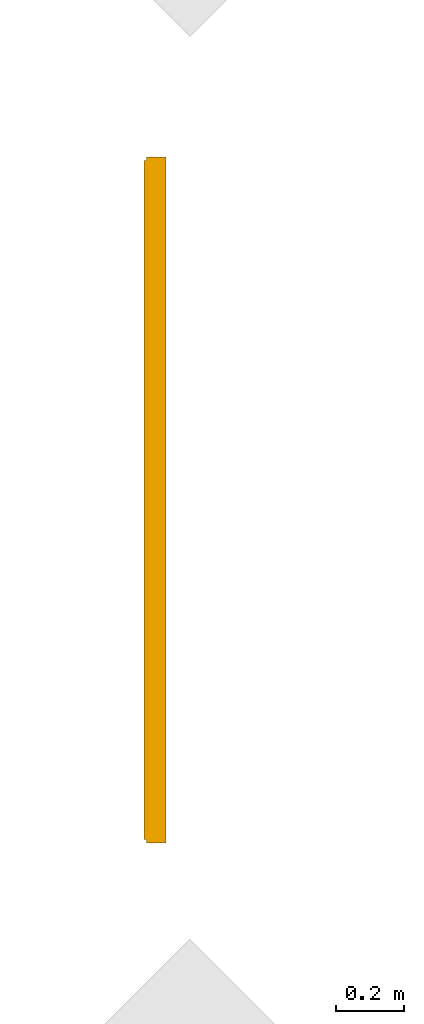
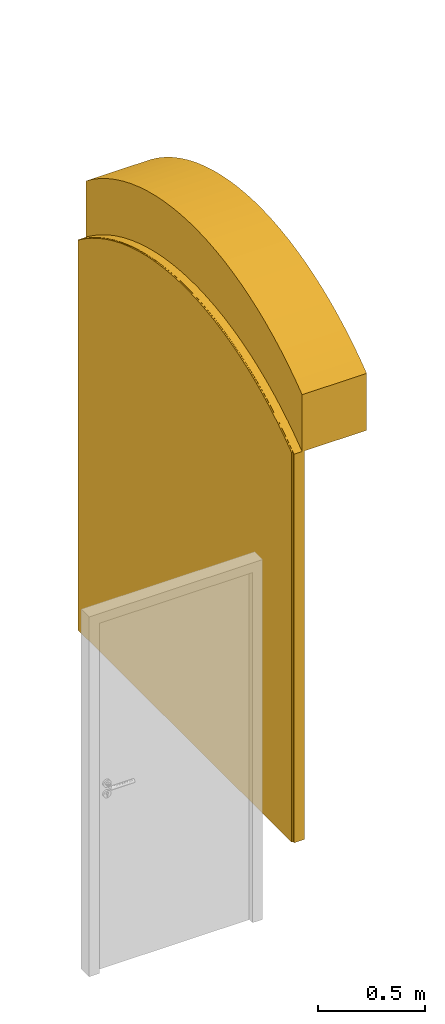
# One storey, part 3 of 6: 1 door.
"""IFC2X3 building model written with IfcOpenShell, lengths in metres."""

from ifc_helpers import new_model, entity, si_unit, converted_unit, derived_unit, direction, frame, frame_2d, origin, place, context, subcontext, project, spatial, polyline, circle_curve, parameter, trimmed, segment, composite_curve, outline, extrude, source, transform, mapped, material, material_list, type_object, type_shapes, element, save


model = new_model("IFC2X3")

# Units and contexts
model_context = context("Model", 3, precision=1e-05, world=origin(), true_north=direction((6.12303176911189e-17, 1.0)))
plan_context = context("Plan", 3, precision=1e-05, world=origin(), true_north=direction((6.12303176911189e-17, 1.0)))
body_context = subcontext(model_context, "Body", "Model", "MODEL_VIEW")
ifc_project = project(units=[si_unit("LENGTHUNIT", "METRE"), si_unit("AREAUNIT", "SQUARE_METRE"), si_unit("VOLUMEUNIT", "CUBIC_METRE"), converted_unit("PLANEANGLEUNIT", "DEGREE", entity("IfcRatioMeasure", 0.0174532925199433), si_unit("PLANEANGLEUNIT", "RADIAN"), dimensions=[0, 0, 0, 0, 0, 0, 0]), si_unit("MASSUNIT", "GRAM", prefix="KILO"), derived_unit("MASSDENSITYUNIT", [(si_unit("MASSUNIT", "GRAM", prefix="KILO"), 1), (si_unit("LENGTHUNIT", "METRE"), -3)]), derived_unit("MOMENTOFINERTIAUNIT", [(si_unit("LENGTHUNIT", "METRE"), 4)]), si_unit("TIMEUNIT", "SECOND"), si_unit("FREQUENCYUNIT", "HERTZ"), si_unit("THERMODYNAMICTEMPERATUREUNIT", "DEGREE_CELSIUS"), derived_unit("THERMALTRANSMITTANCEUNIT", [(si_unit("MASSUNIT", "GRAM", prefix="KILO"), 1), (si_unit("THERMODYNAMICTEMPERATUREUNIT", "KELVIN"), -1), (si_unit("TIMEUNIT", "SECOND"), -3)]), derived_unit("VOLUMETRICFLOWRATEUNIT", [(si_unit("LENGTHUNIT", "METRE"), 3), (si_unit("TIMEUNIT", "SECOND"), -1)]), derived_unit("MASSFLOWRATEUNIT", [(si_unit("MASSUNIT", "GRAM", prefix="KILO"), 1), (si_unit("TIMEUNIT", "SECOND"), -1)]), derived_unit("ROTATIONALFREQUENCYUNIT", [(si_unit("TIMEUNIT", "SECOND"), -1)]), si_unit("ELECTRICCURRENTUNIT", "AMPERE"), si_unit("ELECTRICVOLTAGEUNIT", "VOLT"), si_unit("POWERUNIT", "WATT"), si_unit("FORCEUNIT", "NEWTON", prefix="KILO"), si_unit("ILLUMINANCEUNIT", "LUX"), si_unit("LUMINOUSFLUXUNIT", "LUMEN"), si_unit("LUMINOUSINTENSITYUNIT", "CANDELA"), derived_unit("USERDEFINED", [(si_unit("MASSUNIT", "GRAM", prefix="KILO"), -1), (si_unit("LENGTHUNIT", "METRE"), -2), (si_unit("TIMEUNIT", "SECOND"), 3), (si_unit("LUMINOUSFLUXUNIT", "LUMEN"), 1)]), derived_unit("SOUNDPOWERUNIT", [(si_unit("MASSUNIT", "GRAM", prefix="KILO"), 1), (si_unit("LENGTHUNIT", "METRE"), 2), (si_unit("TIMEUNIT", "SECOND"), -3)]), derived_unit("SOUNDPRESSUREUNIT", [(si_unit("MASSUNIT", "GRAM", prefix="KILO"), 1), (si_unit("LENGTHUNIT", "METRE"), -1), (si_unit("TIMEUNIT", "SECOND"), -2)]), derived_unit("LINEARVELOCITYUNIT", [(si_unit("LENGTHUNIT", "METRE"), 1), (si_unit("TIMEUNIT", "SECOND"), -1)]), si_unit("PRESSUREUNIT", "PASCAL"), derived_unit("USERDEFINED", [(si_unit("LENGTHUNIT", "METRE"), -2), (si_unit("MASSUNIT", "GRAM", prefix="KILO"), 1), (si_unit("TIMEUNIT", "SECOND"), -2)]), derived_unit("LINEARFORCEUNIT", [(si_unit("MASSUNIT", "GRAM", prefix="KILO"), 1), (si_unit("LENGTHUNIT", "METRE"), 1), (si_unit("TIMEUNIT", "SECOND"), -2), (si_unit("LENGTHUNIT", "METRE"), -1)]), derived_unit("PLANARFORCEUNIT", [(si_unit("MASSUNIT", "GRAM", prefix="KILO"), 1), (si_unit("LENGTHUNIT", "METRE"), 1), (si_unit("TIMEUNIT", "SECOND"), -2), (si_unit("LENGTHUNIT", "METRE"), -2)])], contexts=[model_context, plan_context])

# Site, building, storey
site_placement = place(None, frame((-11.0823275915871, 23.8300534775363, 0.0)))
site = spatial("IfcSite", under=ifc_project, at=site_placement, Name="Default", CompositionType="ELEMENT")
building_placement = place(site_placement, origin())
building = spatial("IfcBuilding", under=site, at=building_placement, Name="Englische Kirche", CompositionType="ELEMENT")
storey_placement = place(building_placement, origin())
storey = spatial("IfcBuildingStorey", under=building, at=storey_placement, Name="Ebene 0 Nave FFL Phase 1 1864", CompositionType="ELEMENT", Elevation=0.0)

# Door
ifc_material_1 = material(Name="Holz - Eiche")
ifc_material_2 = material(Name="Quoin Brick")
ifc_material_list_1 = material_list([ifc_material_1, ifc_material_1, ifc_material_2])
ifc_material_list_2 = material_list([ifc_material_1, ifc_material_1, ifc_material_2])
door_style = type_object("IfcDoorStyle", Name="Tower_entrance_door:Tower_entrance_door", ConstructionType="NOTDEFINED", OperationType="NOTDEFINED", ParameterTakesPrecedence=False, Sizeable=False, material=ifc_material_list_2)
shared_shape = source(origin(), body_context, "Body", "SweptSolid", [
    extrude(outline(composite_curve([segment(polyline([(-1.10819592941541, -1.0075), (1.10574495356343, -1.0075)]), True, "CONTINUOUS"), segment(polyline([(1.10574495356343, -1.0075), (1.10574495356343, -0.997499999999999)]), True, "CONTINUOUS"), segment(polyline([(1.10574495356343, -0.997499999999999), (-1.10329397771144, -0.997499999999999)]), True, "CONTINUOUS"), segment(trimmed(circle_curve(frame_2d((0.187957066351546, 0.0), x_axis=(-0.78953490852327, 0.613705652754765)), 1.63166648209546), [parameter(0.171606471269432)], [parameter(75.5442551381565)], True, "PARAMETER"), False, "CONTINUOUS"), segment(polyline([(-1.10329397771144, 0.997500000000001), (1.10574495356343, 0.997500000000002)]), True, "CONTINUOUS"), segment(polyline([(1.10574495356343, 0.997500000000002), (1.10574495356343, 1.0075)]), True, "CONTINUOUS"), segment(polyline([(1.10574495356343, 1.0075), (-1.10819592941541, 1.0075)]), True, "CONTINUOUS"), segment(trimmed(circle_curve(frame_2d((0.187957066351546, 0.0), x_axis=(-0.78953490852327, 0.613705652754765)), 1.64166648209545), [parameter(3.05333249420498e-13)], [parameter(75.7158616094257)], True, "PARAMETER"), True, "CONTINUOUS")], self_intersect=False)), frame((1.00909527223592, -0.377845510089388, 1.10574495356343), z_axis=(0.0, 1.0, 0.0), x_axis=(0.0, 0.0, -1.0)), (0.0, 0.0, 1.0), 0.057845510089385),
    extrude(outline(composite_curve([segment(polyline([(-1.10964880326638, -0.9975), (1.10964880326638, -0.9975)]), True, "CONTINUOUS"), segment(polyline([(1.10964880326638, -0.9975), (1.10964880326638, 0.9975)]), True, "CONTINUOUS"), segment(polyline([(1.10964880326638, 0.9975), (-1.1096488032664, 0.997499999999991)]), True, "CONTINUOUS"), segment(trimmed(circle_curve(frame_2d((0.189142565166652, 0.0), x_axis=(0.0, -1.0)), 1.63764015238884), [parameter(232.47495408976)], [parameter(307.525045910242)], True, "PARAMETER"), True, "CONTINUOUS")], self_intersect=False)), frame((1.00909527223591, -0.385000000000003, 1.10964880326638), z_axis=(0.0, 1.0, 0.0), x_axis=(0.0, 0.0, -1.0)), (0.0, 0.0, 1.0), 0.065),
    extrude(outline(composite_curve([segment(polyline([(-0.16141085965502, -1.00749999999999), (0.15968662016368, -1.00749999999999)]), True, "CONTINUOUS"), segment(trimmed(circle_curve(frame_2d((-1.13088834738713, 0.00221164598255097), x_axis=(0.0, 1.0)), 1.63862788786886), [parameter(231.961315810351)], [parameter(307.842571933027)], True, "PARAMETER"), True, "CONTINUOUS"), segment(polyline([(0.163135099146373, 1.0075), (-0.161410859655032, 1.0075)]), True, "CONTINUOUS"), segment(trimmed(circle_curve(frame_2d((-1.45348632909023, 0.0), x_axis=(0.0, 1.0)), 1.63844904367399), [parameter(232.054561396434)], [parameter(307.945438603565)], True, "PARAMETER"), False, "CONTINUOUS")], self_intersect=False)), frame((1.00909527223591, -0.333934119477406, 2.37399256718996), z_axis=(0.0, 1.0, 0.0), x_axis=(0.0, 0.0, 1.0)), (0.0, 0.0, 1.0), 0.347969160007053),
])
type_shapes(door_style, [shared_shape])
door_placement = place(storey_placement, frame((2.97095737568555, 14.2549588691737, 0.0), z_axis=(0.0, 0.0, 1.0), x_axis=(0.0, -1.0, 0.0)))
element("IfcDoor", 1, at=door_placement, inside=storey, type_object=door_style, material=ifc_material_list_1, Name="Tower_entrance_door:Tower_entrance_door", ObjectType="Tower_entrance_door:Tower_entrance_door", OverallHeight=3.93, OverallWidth=2.01500000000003, context=body_context, shape_type="MappedRepresentation", body=[
    mapped(shared_shape, transform((0.0, 0.0, 0.0), scale=1.0)),
])

save(model, "model.ifc")
